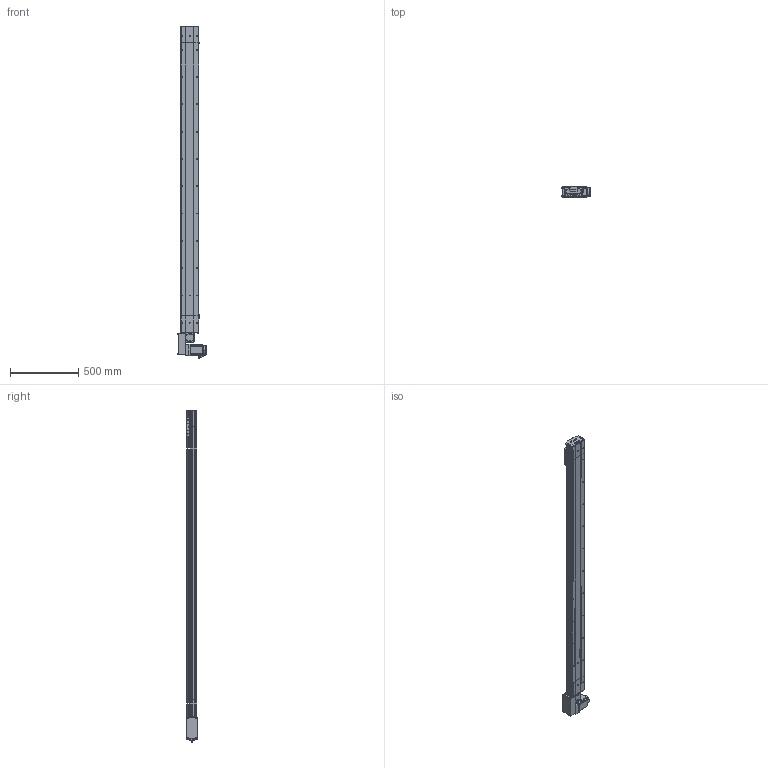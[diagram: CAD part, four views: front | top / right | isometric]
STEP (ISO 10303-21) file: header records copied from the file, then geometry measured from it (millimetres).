
FILE_DESCRIPTION (( 'STEP AP214' ), '1' );
FILE_NAME ('D14 TBH RH S2000.STEP', '2010-06-29T14:15:13', ( 'Conseil Régional Haute-Normandie' ), ( 'Conseil Régional Haute-Normandie' ), 'SwSTEP 2.0', 'SolidWorks 2010', '' );
FILE_SCHEMA (( 'AUTOMOTIVE_DESIGN' ));
Length unit declared in the file: millimetre
Products named in the file (39): Tail D14B_Default; couvercle D14 course L2000_Default; corpl 2000_Default; corpl tail D14_Default; couroie 2_Default; Rail + couroie D14 Course 2000 ; D14 couroie L2000_Default; tete d''axe haut D14; D14 TB H RH_Default; Couroie_Default; poulie tail_Default; vis M5 L8 90°_Default; vis M5 L16_Default; Arbre+rail tail D14; plaque de  bout tail D14_Default; corp head D14_Default; couvercle D14_Default; Arbre+rail head D14; plaque de  bout head D14 RH_Default; poulie head_Default; Plaque racord D14_Default; Conecteur2_Default; Moteur motionking 90BLDC100A-640; Cvis M5 L70_Default; Vis M5 L16-2_Default; corps 90BLDC100A-640; avant 90BLDC100A-640; Conecteur_Default; couvercle D14 head_Default; codeur 90BLDC100-640; Cache arbre_Default; Chariot D14; vis M5 L5_Default; Cache_Default; renvoi RH_Default; vis M5 L12_Default; guide D14; chariot D14B_Default; D14 TBH RH S2000
Assembly tree (68 placements, depth 4):
  D14 TBH RH S2000
    D14 TB H RH_Default
      Cache_Default  x2
      Moteur motionking 90BLDC100A-640
        avant 90BLDC100A-640
        Conecteur2_Default
        codeur 90BLDC100-640
        corps 90BLDC100A-640
        Conecteur_Default
      Cache arbre_Default
      Vis M5 L16-2_Default  x4
      vis M5 L12_Default  x12
      renvoi RH_Default
      Plaque racord D14_Default
      couvercle D14 head_Default
      vis M5 L5_Default  x2
      couroie 2_Default
      Arbre+rail head D14
      Cvis M5 L70_Default  x4
      plaque de  bout head D14 RH_Default
      poulie head_Default
      corp head D14_Default
    Tail D14B_Default
      Arbre+rail tail D14
      vis M5 L16_Default  x2
      couvercle D14_Default
      vis M5 L8 90°_Default  x2
      Couroie_Default
      corpl tail D14_Default
      plaque de  bout tail D14_Default
      vis M5 L12_Default  x4
      tete d''axe haut D14
      poulie tail_Default
    D14 couroie L2000_Default
      corpl 2000_Default
      couvercle D14 course L2000_Default
      Rail + couroie D14 Course 2000 
    chariot D14B_Default
      Chariot D14
      guide D14  x2
      vis M5 L12_Default  x4
Bounding box: 207.2 x 85.9 x 2432.45 mm (x, y, z)
Volume: 9125256.6 mm3; surface area: 3207618.2 mm2
Topology: 92 solids, 92 shells, 2693 faces, 6575 edges, 4242 vertices
Faces by surface type: plane 1605, cylinder 775, bspline 136, torus 89, cone 84, sphere 4
Entity records: 81044 total; most frequent: CARTESIAN_POINT 23849, ORIENTED_EDGE 10010, DIRECTION 9864, EDGE_CURVE 5005, VECTOR 3322, LINE 3322, VERTEX_POINT 3292, AXIS2_PLACEMENT_3D 3271
